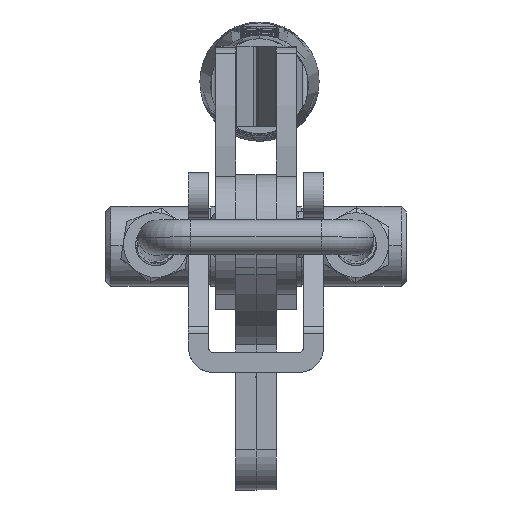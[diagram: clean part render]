
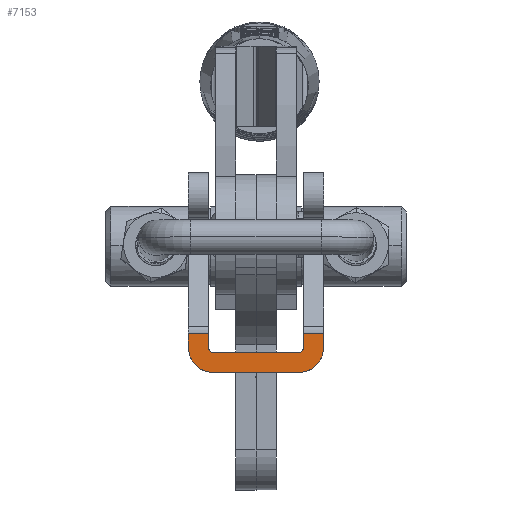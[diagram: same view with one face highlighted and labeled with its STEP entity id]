
A CAD part, left-side view. The second image highlights one B-rep face of the part: STEP entity #7153.
In plain terms, the highlighted planar face has unit normal (-1, 0, 0).
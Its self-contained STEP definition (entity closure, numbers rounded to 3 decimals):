
#83 = EDGE_CURVE ( 'NONE', #13672, #6750, #18039, .T. ) ;
#312 = ORIENTED_EDGE ( 'NONE', *, *, #22399, .F. ) ;
#404 = CARTESIAN_POINT ( 'NONE',  ( -109.582, -8.5, 47.475 ) ) ;
#877 = LINE ( 'NONE', #19693, #14151 ) ;
#1107 = ORIENTED_EDGE ( 'NONE', *, *, #14705, .T. ) ;
#1145 = ORIENTED_EDGE ( 'NONE', *, *, #13262, .F. ) ;
#2013 = LINE ( 'NONE', #4684, #3374 ) ;
#2317 = VECTOR ( 'NONE', #7052, 1000. ) ;
#2470 = AXIS2_PLACEMENT_3D ( 'NONE', #18671, #16945, #16622 ) ;
#2682 = EDGE_CURVE ( 'NONE', #26402, #16964, #11125, .T. ) ;
#2888 = VECTOR ( 'NONE', #30929, 1000. ) ;
#3374 = VECTOR ( 'NONE', #26275, 1000. ) ;
#3626 = EDGE_CURVE ( 'NONE', #18486, #6762, #877, .T. ) ;
#3715 = ORIENTED_EDGE ( 'NONE', *, *, #4784, .F. ) ;
#3759 = ORIENTED_EDGE ( 'NONE', *, *, #2682, .T. ) ;
#4109 = DIRECTION ( 'NONE',  ( 1., 0., 0. ) ) ;
#4111 = CARTESIAN_POINT ( 'NONE',  ( -109.582, 8.5, 47.475 ) ) ;
#4684 = CARTESIAN_POINT ( 'NONE',  ( -109.582, 9.5, 50.235 ) ) ;
#4703 = ORIENTED_EDGE ( 'NONE', *, *, #26089, .F. ) ;
#4784 = EDGE_CURVE ( 'NONE', #26402, #18658, #29024, .T. ) ;
#5665 = VECTOR ( 'NONE', #27578, 1000. ) ;
#6750 = VERTEX_POINT ( 'NONE', #26820 ) ;
#6762 = VERTEX_POINT ( 'NONE', #26672 ) ;
#7052 = DIRECTION ( 'NONE',  ( 0., 0., -1. ) ) ;
#7153 = ADVANCED_FACE ( 'NONE', ( #30866 ), #16466, .T. ) ;
#8381 = CARTESIAN_POINT ( 'NONE',  ( -109.582, -13.5, 50.235 ) ) ;
#8501 = LINE ( 'NONE', #18053, #5665 ) ;
#8556 = CARTESIAN_POINT ( 'NONE',  ( -109.582, 9.5, 50.235 ) ) ;
#8978 = EDGE_LOOP ( 'NONE', ( #4703, #16206, #3715, #3759, #1145, #1107, #9600, #20316, #312, #21667, #15862, #10864 ) ) ;
#9548 = CIRCLE ( 'NONE', #27038, 1. ) ;
#9600 = ORIENTED_EDGE ( 'NONE', *, *, #13404, .T. ) ;
#10448 = DIRECTION ( 'NONE',  ( 0., 1., 0. ) ) ;
#10864 = ORIENTED_EDGE ( 'NONE', *, *, #3626, .T. ) ;
#11125 = CIRCLE ( 'NONE', #30122, 1. ) ;
#11305 = DIRECTION ( 'NONE',  ( 0., 0., 1. ) ) ;
#12214 = VERTEX_POINT ( 'NONE', #8556 ) ;
#12466 = EDGE_CURVE ( 'NONE', #17787, #28131, #15877, .T. ) ;
#12478 = DIRECTION ( 'NONE',  ( 0., 0., 1. ) ) ;
#12499 = VECTOR ( 'NONE', #18884, 1000. ) ;
#13262 = EDGE_CURVE ( 'NONE', #12214, #16964, #30241, .T. ) ;
#13292 = CARTESIAN_POINT ( 'NONE',  ( -109.582, -8.5, 42.475 ) ) ;
#13404 = EDGE_CURVE ( 'NONE', #18602, #6750, #19019, .T. ) ;
#13672 = VERTEX_POINT ( 'NONE', #27133 ) ;
#14029 = CARTESIAN_POINT ( 'NONE',  ( -109.582, -13.5, 42.475 ) ) ;
#14151 = VECTOR ( 'NONE', #10448, 1000. ) ;
#14303 = CARTESIAN_POINT ( 'NONE',  ( -109.582, 13.5, 46.475 ) ) ;
#14323 = CARTESIAN_POINT ( 'NONE',  ( -109.582, 13.5, 50.235 ) ) ;
#14469 = DIRECTION ( 'NONE',  ( 0., -1., 0. ) ) ;
#14489 = DIRECTION ( 'NONE',  ( 0., 0., -1. ) ) ;
#14705 = EDGE_CURVE ( 'NONE', #12214, #18602, #2013, .T. ) ;
#15094 = EDGE_CURVE ( 'NONE', #17787, #18486, #19359, .T. ) ;
#15573 = CARTESIAN_POINT ( 'NONE',  ( -109.582, 8.5, 46.475 ) ) ;
#15862 = ORIENTED_EDGE ( 'NONE', *, *, #15094, .T. ) ;
#15877 = CIRCLE ( 'NONE', #21865, 5. ) ;
#16033 = CARTESIAN_POINT ( 'NONE',  ( -109.582, -9.5, 47.475 ) ) ;
#16206 = ORIENTED_EDGE ( 'NONE', *, *, #28750, .F. ) ;
#16466 = PLANE ( 'NONE',  #2470 ) ;
#16622 = DIRECTION ( 'NONE',  ( 0., 0., 1. ) ) ;
#16945 = DIRECTION ( 'NONE',  ( -1., 0., 0. ) ) ;
#16964 = VERTEX_POINT ( 'NONE', #20444 ) ;
#17321 = DIRECTION ( 'NONE',  ( -1., 0., 0. ) ) ;
#17417 = VECTOR ( 'NONE', #14469, 1000. ) ;
#17787 = VERTEX_POINT ( 'NONE', #20334 ) ;
#18039 = CIRCLE ( 'NONE', #20521, 5. ) ;
#18053 = CARTESIAN_POINT ( 'NONE',  ( -109.582, 13.5, 42.475 ) ) ;
#18486 = VERTEX_POINT ( 'NONE', #8381 ) ;
#18602 = VERTEX_POINT ( 'NONE', #14323 ) ;
#18658 = VERTEX_POINT ( 'NONE', #30441 ) ;
#18671 = CARTESIAN_POINT ( 'NONE',  ( -109.582, -9.5, 42.475 ) ) ;
#18884 = DIRECTION ( 'NONE',  ( 0., 0., 1. ) ) ;
#19019 = LINE ( 'NONE', #28714, #24369 ) ;
#19359 = LINE ( 'NONE', #14029, #2888 ) ;
#19693 = CARTESIAN_POINT ( 'NONE',  ( -109.582, -9.5, 50.235 ) ) ;
#20316 = ORIENTED_EDGE ( 'NONE', *, *, #83, .F. ) ;
#20334 = CARTESIAN_POINT ( 'NONE',  ( -109.582, -13.5, 47.475 ) ) ;
#20444 = CARTESIAN_POINT ( 'NONE',  ( -109.582, 9.5, 47.475 ) ) ;
#20521 = AXIS2_PLACEMENT_3D ( 'NONE', #4111, #23176, #11305 ) ;
#21200 = LINE ( 'NONE', #30624, #12499 ) ;
#21667 = ORIENTED_EDGE ( 'NONE', *, *, #12466, .F. ) ;
#21865 = AXIS2_PLACEMENT_3D ( 'NONE', #24644, #24794, #12478 ) ;
#22399 = EDGE_CURVE ( 'NONE', #28131, #13672, #8501, .T. ) ;
#23176 = DIRECTION ( 'NONE',  ( 1., 0., 0. ) ) ;
#23482 = DIRECTION ( 'NONE',  ( 0., 0., 1. ) ) ;
#24369 = VECTOR ( 'NONE', #14489, 1000. ) ;
#24644 = CARTESIAN_POINT ( 'NONE',  ( -109.582, -8.5, 47.475 ) ) ;
#24794 = DIRECTION ( 'NONE',  ( 1., 0., 0. ) ) ;
#25701 = CARTESIAN_POINT ( 'NONE',  ( -109.582, 8.5, 47.475 ) ) ;
#26089 = EDGE_CURVE ( 'NONE', #26683, #6762, #21200, .T. ) ;
#26275 = DIRECTION ( 'NONE',  ( 0., 1., 0. ) ) ;
#26402 = VERTEX_POINT ( 'NONE', #15573 ) ;
#26672 = CARTESIAN_POINT ( 'NONE',  ( -109.582, -9.5, 50.235 ) ) ;
#26683 = VERTEX_POINT ( 'NONE', #16033 ) ;
#26820 = CARTESIAN_POINT ( 'NONE',  ( -109.582, 13.5, 47.475 ) ) ;
#27038 = AXIS2_PLACEMENT_3D ( 'NONE', #404, #17321, #28901 ) ;
#27133 = CARTESIAN_POINT ( 'NONE',  ( -109.582, 8.5, 42.475 ) ) ;
#27578 = DIRECTION ( 'NONE',  ( 0., 1., 0. ) ) ;
#27878 = CARTESIAN_POINT ( 'NONE',  ( -109.582, 9.5, 57.966 ) ) ;
#28131 = VERTEX_POINT ( 'NONE', #13292 ) ;
#28714 = CARTESIAN_POINT ( 'NONE',  ( -109.582, 13.5, 42.475 ) ) ;
#28750 = EDGE_CURVE ( 'NONE', #18658, #26683, #9548, .T. ) ;
#28901 = DIRECTION ( 'NONE',  ( 0., 0., 1. ) ) ;
#29024 = LINE ( 'NONE', #14303, #17417 ) ;
#30122 = AXIS2_PLACEMENT_3D ( 'NONE', #25701, #4109, #23482 ) ;
#30241 = LINE ( 'NONE', #27878, #2317 ) ;
#30441 = CARTESIAN_POINT ( 'NONE',  ( -109.582, -8.5, 46.475 ) ) ;
#30624 = CARTESIAN_POINT ( 'NONE',  ( -109.582, -9.5, 57.966 ) ) ;
#30866 = FACE_OUTER_BOUND ( 'NONE', #8978, .T. ) ;
#30929 = DIRECTION ( 'NONE',  ( 0., 0., 1. ) ) ;
